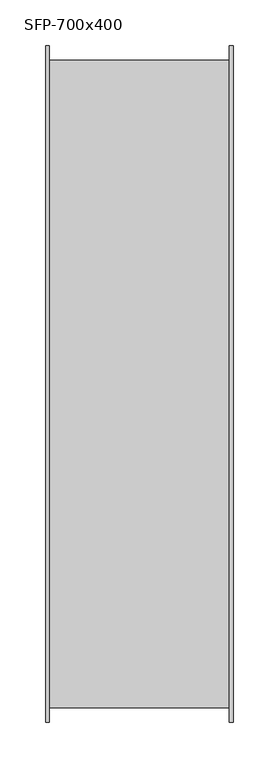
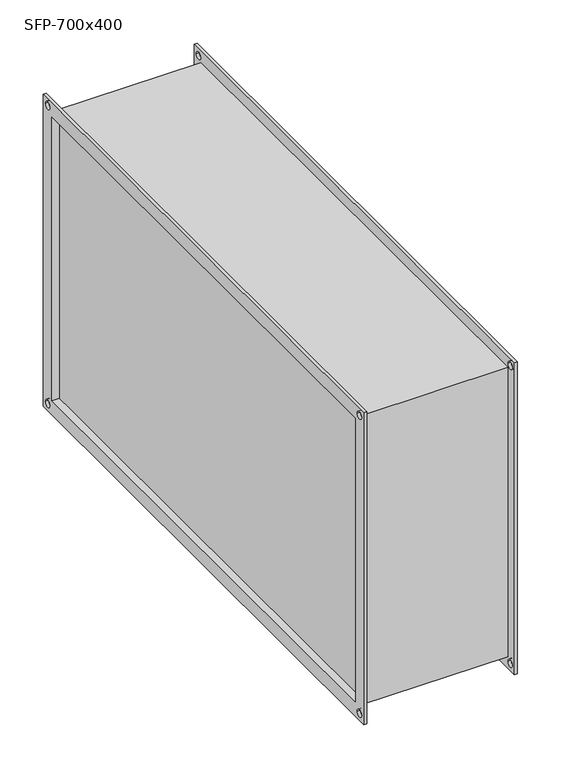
"""IFC4 building model written with IfcOpenShell, lengths in millimetres: damper geometry, СВ_ФильтрКассетный_КанальныйПрямоугольный_200-1000_SFP : SFP-700x400."""

from ifc_helpers import new_model, si_unit, frame, origin, place, context, project, spatial, polyline, circle_curve, outline, extrude, source, transform, mapped, element, save
from ifc_brep_helpers import plane_surface, revolved_surface, advanced_brep


def sfp_700x400_63a0177b(model_context):
    return source(origin(), model_context, "Body", "SolidModel", [
        extrude(outline(polyline([(92.5, 350.0), (92.5, -350.0), (-92.5, -350.0), (-92.5, 350.0), (92.5, 350.0)])), frame((0.0, 0.0, -200.0), z_axis=(0.0, 0.0, 1.0), x_axis=(1.0, 0.0, 0.0)), (0.0, 0.0, 1.0), 400.0),
        advanced_brep(
        [(98.5, -354.0, 204.0), (-98.5, -354.0, 204.0), (-98.5, -354.0, -204.0), (98.5, -354.0, -204.0), (-98.5, 354.0, -204.0), (98.5, 354.0, -204.0), (-98.5, 354.0, 204.0), (98.5, 354.0, 204.0), (-102.5, -370.0, 220.0), (-102.5, 370.0, 220.0), (-102.5, 370.0, -220.0), (-102.5, -370.0, -220.0), (-102.5, -350.0, 200.0), (-102.5, -350.0, -200.0), (-102.5, 350.0, -200.0), (-102.5, 350.0, 200.0), (-102.5, 355.0, 210.0), (-102.5, 365.0, 210.0), (-102.5, -365.0, 210.0), (-102.5, -355.0, 210.0), (-102.5, -365.0, -210.0), (-102.5, -355.0, -210.0), (-102.5, 355.0, -210.0), (-102.5, 365.0, -210.0), (-98.5, -370.0, 220.0), (-98.5, -370.0, -220.0), (-98.5, 370.0, -220.0), (-98.5, 370.0, 220.0), (-98.5, 365.0, 210.0), (-98.5, 355.0, 210.0), (-98.5, -355.0, 210.0), (-98.5, -365.0, 210.0), (-98.5, -355.0, -210.0), (-98.5, -365.0, -210.0), (-98.5, 365.0, -210.0), (-98.5, 355.0, -210.0), (98.5, 370.0, 220.0), (98.5, 370.0, -220.0), (98.5, -370.0, -220.0), (98.5, -370.0, 220.0), (98.5, 355.0, 210.0), (98.5, 365.0, 210.0), (98.5, -365.0, 210.0), (98.5, -355.0, 210.0), (98.5, -365.0, -210.0), (98.5, -355.0, -210.0), (98.5, 355.0, -210.0), (98.5, 365.0, -210.0), (102.5, 370.0, 220.0), (102.5, -370.0, 220.0), (102.5, -370.0, -220.0), (102.5, 370.0, -220.0), (102.5, 350.0, 200.0), (102.5, 350.0, -200.0), (102.5, -350.0, -200.0), (102.5, -350.0, 200.0), (102.5, 365.0, 210.0), (102.5, 355.0, 210.0), (102.5, -355.0, 210.0), (102.5, -365.0, 210.0), (102.5, -355.0, -210.0), (102.5, -365.0, -210.0), (102.5, 365.0, -210.0), (102.5, 355.0, -210.0)],
        [
            (0, 1),
            (1, 2),
            (2, 3),
            (3, 0),
            (2, 4),
            (4, 5),
            (5, 3),
            (4, 6),
            (6, 7),
            (7, 5),
            (0, 7),
            (6, 1),
            (8, 9),
            (9, 10),
            (10, 11),
            (11, 8),
            (12, 13),
            (13, 14),
            (14, 15),
            (15, 12),
            (16, 17, circle_curve(frame((-102.5, 360.0, 210.0), z_axis=(1.0, 0.0, 0.0), x_axis=(0.0, 1.0, 0.0)), 5.0)),
            (17, 16, circle_curve(frame((-102.5, 360.0, 210.0), z_axis=(1.0, 0.0, 0.0), x_axis=(0.0, 1.0, 0.0)), 5.0)),
            (18, 19, circle_curve(frame((-102.5, -360.0, 210.0), z_axis=(1.0, 0.0, 0.0), x_axis=(0.0, 1.0, 0.0)), 5.0)),
            (19, 18, circle_curve(frame((-102.5, -360.0, 210.0), z_axis=(1.0, 0.0, 0.0), x_axis=(0.0, 1.0, 0.0)), 5.0)),
            (20, 21, circle_curve(frame((-102.5, -360.0, -210.0), z_axis=(1.0, 0.0, 0.0), x_axis=(0.0, 1.0, 0.0)), 5.0)),
            (21, 20, circle_curve(frame((-102.5, -360.0, -210.0), z_axis=(1.0, 0.0, 0.0), x_axis=(0.0, 1.0, 0.0)), 5.0)),
            (22, 23, circle_curve(frame((-102.5, 360.0, -210.0), z_axis=(1.0, 0.0, 0.0), x_axis=(0.0, 1.0, 0.0)), 5.0)),
            (23, 22, circle_curve(frame((-102.5, 360.0, -210.0), z_axis=(1.0, 0.0, 0.0), x_axis=(0.0, 1.0, 0.0)), 5.0)),
            (24, 25),
            (25, 26),
            (26, 27),
            (27, 24),
            (28, 29, circle_curve(frame((-98.5, 360.0, 210.0), z_axis=(-1.0, 0.0, 0.0), x_axis=(0.0, 1.0, 0.0)), 5.0)),
            (29, 28, circle_curve(frame((-98.5, 360.0, 210.0), z_axis=(-1.0, 0.0, 0.0), x_axis=(0.0, 1.0, 0.0)), 5.0)),
            (30, 31, circle_curve(frame((-98.5, -360.0, 210.0), z_axis=(-1.0, 0.0, 0.0), x_axis=(0.0, 1.0, 0.0)), 5.0)),
            (31, 30, circle_curve(frame((-98.5, -360.0, 210.0), z_axis=(-1.0, 0.0, 0.0), x_axis=(0.0, 1.0, 0.0)), 5.0)),
            (32, 33, circle_curve(frame((-98.5, -360.0, -210.0), z_axis=(-1.0, 0.0, 0.0), x_axis=(0.0, 1.0, 0.0)), 5.0)),
            (33, 32, circle_curve(frame((-98.5, -360.0, -210.0), z_axis=(-1.0, 0.0, 0.0), x_axis=(0.0, 1.0, 0.0)), 5.0)),
            (34, 35, circle_curve(frame((-98.5, 360.0, -210.0), z_axis=(-1.0, 0.0, 0.0), x_axis=(0.0, 1.0, 0.0)), 5.0)),
            (35, 34, circle_curve(frame((-98.5, 360.0, -210.0), z_axis=(-1.0, 0.0, 0.0), x_axis=(0.0, 1.0, 0.0)), 5.0)),
            (11, 25),
            (24, 8),
            (10, 26),
            (9, 27),
            (36, 37),
            (37, 38),
            (38, 39),
            (39, 36),
            (40, 41, circle_curve(frame((98.5, 360.0, 210.0), z_axis=(1.0, 0.0, 0.0), x_axis=(0.0, 1.0, 0.0)), 5.0)),
            (41, 40, circle_curve(frame((98.5, 360.0, 210.0), z_axis=(1.0, 0.0, 0.0), x_axis=(0.0, 1.0, 0.0)), 5.0)),
            (42, 43, circle_curve(frame((98.5, -360.0, 210.0), z_axis=(1.0, 0.0, 0.0), x_axis=(0.0, 1.0, 0.0)), 5.0)),
            (43, 42, circle_curve(frame((98.5, -360.0, 210.0), z_axis=(1.0, 0.0, 0.0), x_axis=(0.0, 1.0, 0.0)), 5.0)),
            (44, 45, circle_curve(frame((98.5, -360.0, -210.0), z_axis=(1.0, 0.0, 0.0), x_axis=(0.0, 1.0, 0.0)), 5.0)),
            (45, 44, circle_curve(frame((98.5, -360.0, -210.0), z_axis=(1.0, 0.0, 0.0), x_axis=(0.0, 1.0, 0.0)), 5.0)),
            (46, 47, circle_curve(frame((98.5, 360.0, -210.0), z_axis=(1.0, 0.0, 0.0), x_axis=(0.0, 1.0, 0.0)), 5.0)),
            (47, 46, circle_curve(frame((98.5, 360.0, -210.0), z_axis=(1.0, 0.0, 0.0), x_axis=(0.0, 1.0, 0.0)), 5.0)),
            (48, 49),
            (49, 50),
            (50, 51),
            (51, 48),
            (52, 53),
            (53, 54),
            (54, 55),
            (55, 52),
            (56, 57, circle_curve(frame((102.5, 360.0, 210.0), z_axis=(-1.0, 0.0, 0.0), x_axis=(0.0, 1.0, 0.0)), 5.0)),
            (57, 56, circle_curve(frame((102.5, 360.0, 210.0), z_axis=(-1.0, 0.0, 0.0), x_axis=(0.0, 1.0, 0.0)), 5.0)),
            (58, 59, circle_curve(frame((102.5, -360.0, 210.0), z_axis=(-1.0, 0.0, 0.0), x_axis=(0.0, 1.0, 0.0)), 5.0)),
            (59, 58, circle_curve(frame((102.5, -360.0, 210.0), z_axis=(-1.0, 0.0, 0.0), x_axis=(0.0, 1.0, 0.0)), 5.0)),
            (60, 61, circle_curve(frame((102.5, -360.0, -210.0), z_axis=(-1.0, 0.0, 0.0), x_axis=(0.0, 1.0, 0.0)), 5.0)),
            (61, 60, circle_curve(frame((102.5, -360.0, -210.0), z_axis=(-1.0, 0.0, 0.0), x_axis=(0.0, 1.0, 0.0)), 5.0)),
            (62, 63, circle_curve(frame((102.5, 360.0, -210.0), z_axis=(-1.0, 0.0, 0.0), x_axis=(0.0, 1.0, 0.0)), 5.0)),
            (63, 62, circle_curve(frame((102.5, 360.0, -210.0), z_axis=(-1.0, 0.0, 0.0), x_axis=(0.0, 1.0, 0.0)), 5.0)),
            (39, 49),
            (48, 36),
            (38, 50),
            (37, 51),
            (15, 52),
            (55, 12),
            (14, 53),
            (13, 54),
            (16, 29),
            (28, 17),
            (40, 57),
            (56, 41),
            (18, 31),
            (30, 19),
            (42, 59),
            (58, 43),
            (20, 33),
            (32, 21),
            (44, 61),
            (60, 45),
            (22, 35),
            (34, 23),
            (46, 63),
            (62, 47),
        ],
        [
            plane_surface(frame((98.5, -354.0, 204.0), z_axis=(0.0, -1.0, 0.0), x_axis=(-1.0, 0.0, 0.0))),
            plane_surface(frame((98.5, -354.0, -204.0), z_axis=(0.0, 0.0, -1.0), x_axis=(-1.0, 0.0, 0.0))),
            plane_surface(frame((98.5, 354.0, -204.0), z_axis=(0.0, 1.0, 0.0), x_axis=(-1.0, 0.0, 0.0))),
            plane_surface(frame((98.5, 354.0, 204.0), z_axis=(0.0, 0.0, 1.0), x_axis=(-1.0, 0.0, 0.0))),
            plane_surface(frame((-102.5, -370.0, 220.0), z_axis=(-1.0, 0.0, 0.0), x_axis=(0.0, 0.0, 1.0))),
            plane_surface(frame((-98.5, -370.0, 220.0), z_axis=(1.0, 0.0, 0.0), x_axis=(0.0, 0.0, -1.0))),
            plane_surface(frame((-98.5, -370.0, 220.0), z_axis=(0.0, -1.0, 0.0), x_axis=(-1.0, 0.0, 0.0))),
            plane_surface(frame((-98.5, -370.0, -220.0), z_axis=(0.0, 0.0, -1.0), x_axis=(-1.0, 0.0, 0.0))),
            plane_surface(frame((-98.5, 370.0, -220.0), z_axis=(0.0, 1.0, 0.0), x_axis=(-1.0, 0.0, 0.0))),
            plane_surface(frame((-98.5, 370.0, 220.0), z_axis=(0.0, 0.0, 1.0), x_axis=(-1.0, 0.0, 0.0))),
            plane_surface(frame((98.5, 350.0, -200.0), z_axis=(-1.0, 0.0, 0.0), x_axis=(0.0, 0.0, 1.0))),
            plane_surface(frame((102.5, 350.0, -200.0), z_axis=(1.0, 0.0, 0.0), x_axis=(0.0, 0.0, -1.0))),
            plane_surface(frame((102.5, 370.0, 220.0), z_axis=(0.0, 0.0, 1.0), x_axis=(-1.0, 0.0, 0.0))),
            plane_surface(frame((102.5, -370.0, 220.0), z_axis=(0.0, -1.0, 0.0), x_axis=(-1.0, 0.0, 0.0))),
            plane_surface(frame((102.5, -370.0, -220.0), z_axis=(0.0, 0.0, -1.0), x_axis=(-1.0, 0.0, 0.0))),
            plane_surface(frame((102.5, 370.0, -220.0), z_axis=(0.0, 1.0, 0.0), x_axis=(-1.0, 0.0, 0.0))),
            plane_surface(frame((-98.5, -350.0, 200.0), z_axis=(0.0, 0.0, -1.0), x_axis=(-1.0, 0.0, 0.0))),
            plane_surface(frame((-98.5, 350.0, 200.0), z_axis=(0.0, -1.0, 0.0), x_axis=(-1.0, 0.0, 0.0))),
            plane_surface(frame((-98.5, 350.0, -200.0), z_axis=(0.0, 0.0, 1.0), x_axis=(-1.0, 0.0, 0.0))),
            plane_surface(frame((-98.5, -350.0, -200.0), z_axis=(0.0, 1.0, 0.0), x_axis=(-1.0, 0.0, 0.0))),
            revolved_surface(polyline([(-98.5, 365.0, 210.0), (-102.5, 365.0, 210.0)]), (-102.5, 360.0, 210.0), (1.0, 0.0, 0.0)),
            revolved_surface(polyline([(102.5, 365.0, 210.0), (98.5, 365.0, 210.0)]), (-102.5, 360.0, 210.0), (1.0, 0.0, 0.0)),
            revolved_surface(polyline([(-98.5, -355.0, 210.0), (-102.5, -355.0, 210.0)]), (0.0, -360.0, 210.0), (1.0, 0.0, 0.0)),
            revolved_surface(polyline([(102.5, -355.0, 210.0), (98.5, -355.0, 210.0)]), (0.0, -360.0, 210.0), (1.0, 0.0, 0.0)),
            revolved_surface(polyline([(-98.5, -355.0, -210.0), (-102.5, -355.0, -210.0)]), (0.0, -360.0, -210.0), (1.0, 0.0, 0.0)),
            revolved_surface(polyline([(102.5, -355.0, -210.0), (98.5, -355.0, -210.0)]), (0.0, -360.0, -210.0), (1.0, 0.0, 0.0)),
            revolved_surface(polyline([(-98.5, 365.0, -210.0), (-102.5, 365.0, -210.0)]), (0.0, 360.0, -210.0), (1.0, 0.0, 0.0)),
            revolved_surface(polyline([(102.5, 365.0, -210.0), (98.5, 365.0, -210.0)]), (0.0, 360.0, -210.0), (1.0, 0.0, 0.0)),
        ],
        [
            (0, [[1, 2, 3, 4]]),
            (1, [[-3, 5, 6, 7]]),
            (2, [[-6, 8, 9, 10]]),
            (3, [[-1, 11, -9, 12]]),
            (4, [[13, 14, 15, 16], [17, 18, 19, 20], [21, 22], [23, 24], [25, 26], [27, 28]]),
            (5, [[29, 30, 31, 32], [-2, -12, -8, -5], [33, 34], [35, 36], [37, 38], [39, 40]]),
            (6, [[-16, 41, -29, 42]]),
            (7, [[-15, 43, -30, -41]]),
            (8, [[-14, 44, -31, -43]]),
            (9, [[-13, -42, -32, -44]]),
            (10, [[45, 46, 47, 48], [-4, -7, -10, -11], [49, 50], [51, 52], [53, 54], [55, 56]]),
            (11, [[57, 58, 59, 60], [61, 62, 63, 64], [65, 66], [67, 68], [69, 70], [71, 72]]),
            (12, [[-48, 73, -57, 74]]),
            (13, [[-47, 75, -58, -73]]),
            (14, [[-46, 76, -59, -75]]),
            (15, [[-45, -74, -60, -76]]),
            (16, [[-20, 77, -64, 78]]),
            (17, [[-77, -19, 79, -61]]),
            (18, [[-79, -18, 80, -62]]),
            (19, [[-80, -17, -78, -63]]),
            (20, [[81, -33, 82, -21]]),
            (21, [[83, -65, 84, -49]]),
            (20, [[-81, -22, -82, -34]]),
            (21, [[-83, -50, -84, -66]]),
            (22, [[85, -35, 86, -23]]),
            (23, [[87, -67, 88, -51]]),
            (22, [[-85, -24, -86, -36]]),
            (23, [[-87, -52, -88, -68]]),
            (24, [[89, -37, 90, -25]]),
            (25, [[91, -69, 92, -53]]),
            (24, [[-89, -26, -90, -38]]),
            (25, [[-91, -54, -92, -70]]),
            (26, [[93, -39, 94, -27]]),
            (27, [[95, -71, 96, -55]]),
            (26, [[-93, -28, -94, -40]]),
            (27, [[-95, -56, -96, -72]]),
        ],
    ),
    ])


if __name__ == "__main__":
    model = new_model("IFC4")
    model_context = context("Model", 3, world=origin())
    ifc_project = project(units=[si_unit("LENGTHUNIT", "METRE", prefix="MILLI")], contexts=[model_context])
    site = spatial("IfcSite", under=ifc_project)
    building = spatial("IfcBuilding", under=site)
    placement = place(None, origin())
    sfp_700x400_shape = sfp_700x400_63a0177b(model_context)
    element("IfcDamper", 1, ObjectType="СВ_ФильтрКассетный_КанальныйПрямоугольный_200-1000_SFP : SFP-700x400", at=placement, inside=building, context=model_context, shape_type="MappedRepresentation", body=[
        mapped(sfp_700x400_shape, transform((0.0, 0.0, 0.0), x_axis=(1.0, 0.0, 0.0), y_axis=(0.0, 1.0, 0.0), z_axis=(0.0, 0.0, 1.0))),
    ])
    save(model, "model.ifc")
